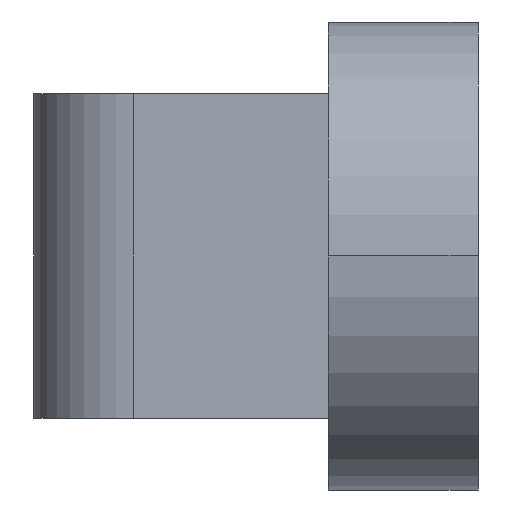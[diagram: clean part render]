
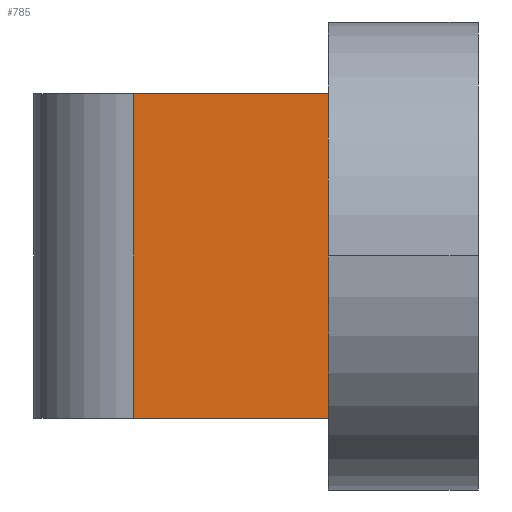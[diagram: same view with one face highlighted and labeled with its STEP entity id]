
A CAD part, left-side view. The second image highlights one B-rep face of the part: STEP entity #785.
In plain terms, the highlighted planar face has unit normal (-1, 0, 0).
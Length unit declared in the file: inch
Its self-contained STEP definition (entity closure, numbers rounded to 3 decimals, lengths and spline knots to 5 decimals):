
#11 = VECTOR ( 'NONE', #27, 39.37008 ) ;
#24 = CARTESIAN_POINT ( 'NONE',  ( -0.385, 0.356, -0.13 ) ) ;
#27 = DIRECTION ( 'NONE',  ( 0., 1., 0. ) ) ;
#43 = CARTESIAN_POINT ( 'NONE',  ( -0.385, 0.356, 0.1875 ) ) ;
#50 = VERTEX_POINT ( 'NONE', #199 ) ;
#68 = LINE ( 'NONE', #459, #622 ) ;
#129 = DIRECTION ( 'NONE',  ( 1., 0., 0. ) ) ;
#161 = DIRECTION ( 'NONE',  ( 0., 0., -1. ) ) ;
#168 = EDGE_CURVE ( 'NONE', #782, #988, #68, .T. ) ;
#192 = ORIENTED_EDGE ( 'NONE', *, *, #226, .T. ) ;
#199 = CARTESIAN_POINT ( 'NONE',  ( -0.385, 0.12, -0.13 ) ) ;
#209 = PLANE ( 'NONE',  #289 ) ;
#226 = EDGE_CURVE ( 'NONE', #792, #782, #791, .T. ) ;
#289 = AXIS2_PLACEMENT_3D ( 'NONE', #43, #129, #522 ) ;
#323 = DIRECTION ( 'NONE',  ( 0., 0., -1. ) ) ;
#399 = CARTESIAN_POINT ( 'NONE',  ( -0.385, 0.276, -0.13 ) ) ;
#405 = DIRECTION ( 'NONE',  ( 0., 1., 0. ) ) ;
#414 = LINE ( 'NONE', #24, #492 ) ;
#436 = CARTESIAN_POINT ( 'NONE',  ( -0.385, 0.12, 0.13 ) ) ;
#456 = ORIENTED_EDGE ( 'NONE', *, *, #633, .F. ) ;
#457 = ORIENTED_EDGE ( 'NONE', *, *, #663, .F. ) ;
#459 = CARTESIAN_POINT ( 'NONE',  ( -0.385, 0.276, 0.1875 ) ) ;
#492 = VECTOR ( 'NONE', #405, 39.37008 ) ;
#519 = CARTESIAN_POINT ( 'NONE',  ( -0.385, 0.276, 0.13 ) ) ;
#522 = DIRECTION ( 'NONE',  ( 0., 1., 0. ) ) ;
#622 = VECTOR ( 'NONE', #161, 39.37008 ) ;
#624 = VECTOR ( 'NONE', #323, 39.37008 ) ;
#633 = EDGE_CURVE ( 'NONE', #792, #50, #732, .T. ) ;
#663 = EDGE_CURVE ( 'NONE', #50, #988, #414, .T. ) ;
#732 = LINE ( 'NONE', #880, #624 ) ;
#782 = VERTEX_POINT ( 'NONE', #519 ) ;
#785 = ADVANCED_FACE ( 'NONE', ( #836 ), #209, .F. ) ;
#791 = LINE ( 'NONE', #965, #11 ) ;
#792 = VERTEX_POINT ( 'NONE', #436 ) ;
#836 = FACE_OUTER_BOUND ( 'NONE', #872, .T. ) ;
#872 = EDGE_LOOP ( 'NONE', ( #456, #192, #930, #457 ) ) ;
#880 = CARTESIAN_POINT ( 'NONE',  ( -0.385, 0.12, 0.1875 ) ) ;
#930 = ORIENTED_EDGE ( 'NONE', *, *, #168, .T. ) ;
#965 = CARTESIAN_POINT ( 'NONE',  ( -0.385, 0.356, 0.13 ) ) ;
#988 = VERTEX_POINT ( 'NONE', #399 ) ;
